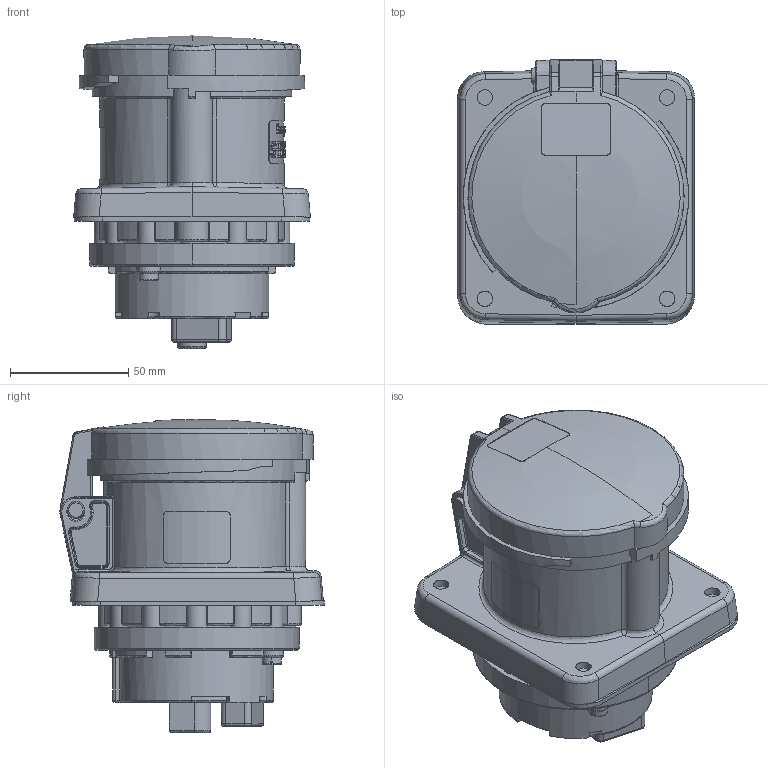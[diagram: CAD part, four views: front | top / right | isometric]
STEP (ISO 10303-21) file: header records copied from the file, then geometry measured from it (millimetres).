
FILE_DESCRIPTION((''),'2;1');
FILE_NAME('1105669_ASM_SW0001','2017-10-05T',('gisse'),('MENNEKES'),'PRO/ENGINEER BY PARAMETRIC TECHNOLOGY CORPORATION, 2015440','PRO/ENGINEER BY PARAMETRIC TECHNOLOGY CORPORATION, 2015440','');
FILE_SCHEMA(('AUTOMOTIVE_DESIGN { 1 0 10303 214 1 1 1 1 }'));
Length unit declared in the file: millimetre
Products named in the file (1): 1105669_ASM_SW0001
Bounding box: 100 x 111.65 x 132.3 mm (x, y, z)
Volume: 679267.1 mm3; surface area: 68502.4 mm2
Topology: 1 solids, 1 shells, 1296 faces, 3520 edges, 2263 vertices
Faces by surface type: plane 808, cylinder 274, torus 107, cone 64, bspline 41, sphere 2
Entity records: 58387 total; most frequent: CARTESIAN_POINT 11704, ORIENTED_EDGE 7028, DIRECTION 6010, EDGE_CURVE 3514, FILL_AREA_STYLE_COLOUR 2448, FILL_AREA_STYLE 2448, SURFACE_STYLE_FILL_AREA 2448, SURFACE_SIDE_STYLE 2448
